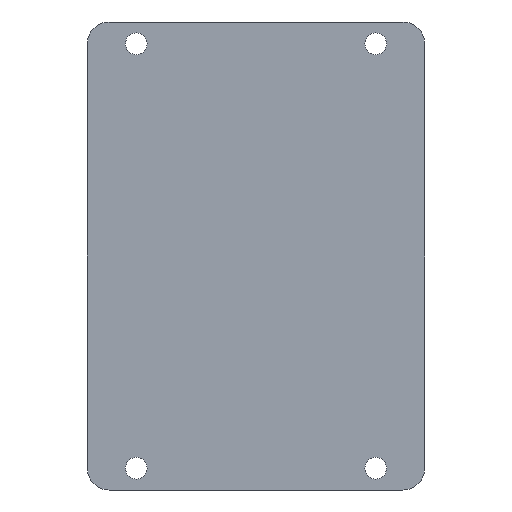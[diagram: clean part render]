
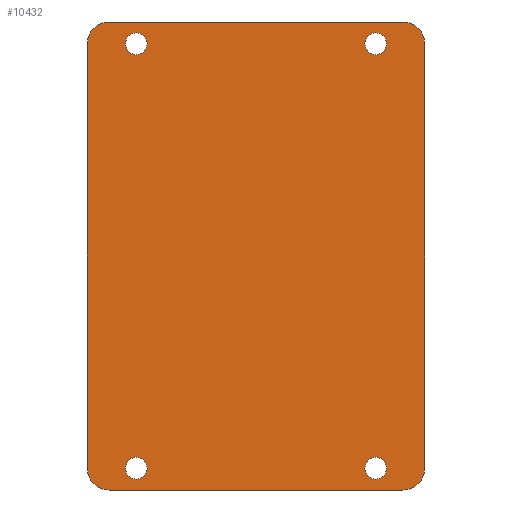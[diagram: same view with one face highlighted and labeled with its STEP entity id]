
A CAD part, front view. The second image highlights one B-rep face of the part: STEP entity #10432.
In plain terms, the highlighted planar face has unit normal (0, -1, 0).
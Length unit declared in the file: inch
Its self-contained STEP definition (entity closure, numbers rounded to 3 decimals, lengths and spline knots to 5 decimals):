
#7563=CARTESIAN_POINT('',(1.9375,-0.0625,2.4375));
#7564=VERTEX_POINT('',#7563);
#7571=CARTESIAN_POINT('',(1.9375,-0.0625,-2.4375));
#7572=VERTEX_POINT('',#7571);
#7573=CARTESIAN_POINT('',(1.9375,-0.0625,2.4375));
#7574=DIRECTION('',(0.0,0.0,-1.0));
#7575=VECTOR('',#7574,4.875);
#7576=LINE('',#7573,#7575);
#7577=EDGE_CURVE('',#7564,#7572,#7576,.T.);
#10161=CARTESIAN_POINT('',(-1.5,-0.0625,2.4375));
#10162=VERTEX_POINT('',#10161);
#10163=CARTESIAN_POINT('',(-1.375,-0.0625,2.4375));
#10164=DIRECTION('',(0.0,1.0,0.0));
#10165=DIRECTION('',(1.0,0.0,0.0));
#10166=AXIS2_PLACEMENT_3D('',#10163,#10164,#10165);
#10167=CIRCLE('',#10166,0.125);
#10168=EDGE_CURVE('',#10162,#10162,#10167,.T.);
#10181=CARTESIAN_POINT('',(1.25,-0.0625,2.4375));
#10182=VERTEX_POINT('',#10181);
#10183=CARTESIAN_POINT('',(1.375,-0.0625,2.4375));
#10184=DIRECTION('',(0.0,1.0,0.0));
#10185=DIRECTION('',(1.0,0.0,0.0));
#10186=AXIS2_PLACEMENT_3D('',#10183,#10184,#10185);
#10187=CIRCLE('',#10186,0.125);
#10188=EDGE_CURVE('',#10182,#10182,#10187,.T.);
#10201=CARTESIAN_POINT('',(-1.5,-0.0625,-2.4375));
#10202=VERTEX_POINT('',#10201);
#10203=CARTESIAN_POINT('',(-1.375,-0.0625,-2.4375));
#10204=DIRECTION('',(0.0,1.0,0.0));
#10205=DIRECTION('',(1.0,0.0,0.0));
#10206=AXIS2_PLACEMENT_3D('',#10203,#10204,#10205);
#10207=CIRCLE('',#10206,0.125);
#10208=EDGE_CURVE('',#10202,#10202,#10207,.T.);
#10221=CARTESIAN_POINT('',(1.25,-0.0625,-2.4375));
#10222=VERTEX_POINT('',#10221);
#10223=CARTESIAN_POINT('',(1.375,-0.0625,-2.4375));
#10224=DIRECTION('',(0.0,1.0,0.0));
#10225=DIRECTION('',(1.0,0.0,0.0));
#10226=AXIS2_PLACEMENT_3D('',#10223,#10224,#10225);
#10227=CIRCLE('',#10226,0.125);
#10228=EDGE_CURVE('',#10222,#10222,#10227,.T.);
#10241=CARTESIAN_POINT('',(1.6875,-0.0625,-2.6875));
#10242=VERTEX_POINT('',#10241);
#10243=CARTESIAN_POINT('',(1.6875,-0.0625,-2.4375));
#10244=DIRECTION('',(0.0,1.0,0.0));
#10245=DIRECTION('',(1.0,0.0,0.0));
#10246=AXIS2_PLACEMENT_3D('',#10243,#10244,#10245);
#10247=CIRCLE('',#10246,0.25);
#10248=EDGE_CURVE('',#7572,#10242,#10247,.T.);
#10266=CARTESIAN_POINT('',(-1.6875,-0.0625,-2.6875));
#10267=VERTEX_POINT('',#10266);
#10268=CARTESIAN_POINT('',(1.6875,-0.0625,-2.6875));
#10269=DIRECTION('',(-1.0,0.0,0.0));
#10270=VECTOR('',#10269,3.375);
#10271=LINE('',#10268,#10270);
#10272=EDGE_CURVE('',#10242,#10267,#10271,.T.);
#10290=CARTESIAN_POINT('',(-1.9375,-0.0625,-2.4375));
#10291=VERTEX_POINT('',#10290);
#10292=CARTESIAN_POINT('',(-1.6875,-0.0625,-2.4375));
#10293=DIRECTION('',(0.0,1.0,0.0));
#10294=DIRECTION('',(0.0,0.0,-1.0));
#10295=AXIS2_PLACEMENT_3D('',#10292,#10293,#10294);
#10296=CIRCLE('',#10295,0.25);
#10297=EDGE_CURVE('',#10267,#10291,#10296,.T.);
#10317=CARTESIAN_POINT('',(-1.9375,-0.0625,2.4375));
#10318=VERTEX_POINT('',#10317);
#10319=CARTESIAN_POINT('',(-1.9375,-0.0625,-2.4375));
#10320=DIRECTION('',(0.0,0.0,1.0));
#10321=VECTOR('',#10320,4.875);
#10322=LINE('',#10319,#10321);
#10323=EDGE_CURVE('',#10291,#10318,#10322,.T.);
#10343=CARTESIAN_POINT('',(-1.6875,-0.0625,2.6875));
#10344=VERTEX_POINT('',#10343);
#10345=CARTESIAN_POINT('',(-1.6875,-0.0625,2.4375));
#10346=DIRECTION('',(0.0,1.0,0.0));
#10347=DIRECTION('',(-1.0,0.0,0.0));
#10348=AXIS2_PLACEMENT_3D('',#10345,#10346,#10347);
#10349=CIRCLE('',#10348,0.25);
#10350=EDGE_CURVE('',#10318,#10344,#10349,.T.);
#10368=CARTESIAN_POINT('',(1.6875,-0.0625,2.6875));
#10369=VERTEX_POINT('',#10368);
#10370=CARTESIAN_POINT('',(-1.6875,-0.0625,2.6875));
#10371=DIRECTION('',(1.0,0.0,0.0));
#10372=VECTOR('',#10371,3.375);
#10373=LINE('',#10370,#10372);
#10374=EDGE_CURVE('',#10344,#10369,#10373,.T.);
#10392=CARTESIAN_POINT('',(1.6875,-0.0625,2.4375));
#10393=DIRECTION('',(0.0,1.0,0.0));
#10394=DIRECTION('',(0.0,0.0,1.0));
#10395=AXIS2_PLACEMENT_3D('',#10392,#10393,#10394);
#10396=CIRCLE('',#10395,0.25);
#10397=EDGE_CURVE('',#10369,#7564,#10396,.T.);
#10405=CARTESIAN_POINT('',(0.,-0.0625,2.40433));
#10406=DIRECTION('',(0.0,1.0,0.0));
#10407=DIRECTION('',(0.0,0.0,1.0));
#10408=AXIS2_PLACEMENT_3D('',#10405,#10406,#10407);
#10409=PLANE('',#10408);
#10410=ORIENTED_EDGE('',*,*,#7577,.F.);
#10411=ORIENTED_EDGE('',*,*,#10397,.F.);
#10412=ORIENTED_EDGE('',*,*,#10374,.F.);
#10413=ORIENTED_EDGE('',*,*,#10350,.F.);
#10414=ORIENTED_EDGE('',*,*,#10323,.F.);
#10415=ORIENTED_EDGE('',*,*,#10297,.F.);
#10416=ORIENTED_EDGE('',*,*,#10272,.F.);
#10417=ORIENTED_EDGE('',*,*,#10248,.F.);
#10418=EDGE_LOOP('',(#10410,#10411,#10412,#10413,#10414,#10415,#10416,#10417));
#10419=FACE_OUTER_BOUND('',#10418,.T.);
#10420=ORIENTED_EDGE('',*,*,#10168,.T.);
#10421=EDGE_LOOP('',(#10420));
#10422=FACE_BOUND('',#10421,.T.);
#10423=ORIENTED_EDGE('',*,*,#10188,.T.);
#10424=EDGE_LOOP('',(#10423));
#10425=FACE_BOUND('',#10424,.T.);
#10426=ORIENTED_EDGE('',*,*,#10208,.T.);
#10427=EDGE_LOOP('',(#10426));
#10428=FACE_BOUND('',#10427,.T.);
#10429=ORIENTED_EDGE('',*,*,#10228,.T.);
#10430=EDGE_LOOP('',(#10429));
#10431=FACE_BOUND('',#10430,.T.);
#10432=ADVANCED_FACE('',(#10419,#10422,#10425,#10428,#10431),#10409,.F.);
